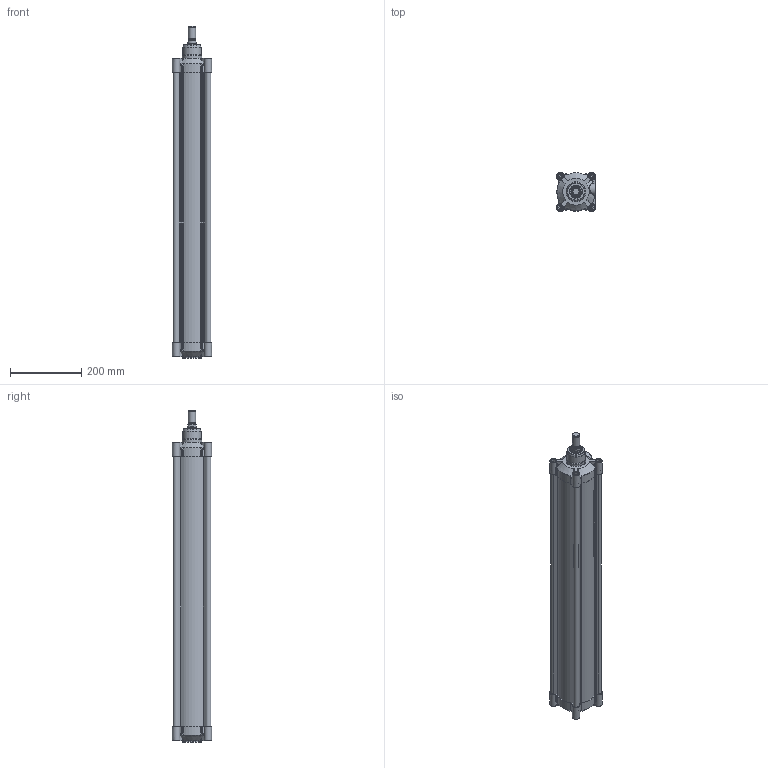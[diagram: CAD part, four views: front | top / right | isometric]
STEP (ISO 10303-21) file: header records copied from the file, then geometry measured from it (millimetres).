
FILE_DESCRIPTION(/* description */ (''),/* implementation_level */ '2;1');
FILE_NAME(/* name */ 'T:\Archivio Inventor\- 00 NUOVI STP PER SITO CON STELO CHE SI MUOVE\SERIE H - U\SERIE HDM\HDM100 - TUBO NUOVO\HDM100.700.GS.M.stp',/* time_stamp */ '2018-08-02T09:55:48+02:00',/* author */ ('carlo.corazza'),/* organization */ (''),/* preprocessor_version */ 'ST-DEVELOPER v16.5',/* originating_system */ 'Autodesk Inventor 2017',/* authorisation */ '');
FILE_SCHEMA (('AUTOMOTIVE_DESIGN { 1 0 10303 214 3 1 1 }'));
Length unit declared in the file: millimetre
Products named in the file (5): HDM100.700.GS.M; TP; TA; STELO-700; CORPO-700
Assembly tree (4 placements, depth 2):
  HDM100.700.GS.M
    TP
    TA
    STELO-700
    CORPO-700
Bounding box: 110 x 110 x 933 mm (x, y, z)
Volume: 2221714.6 mm3; surface area: 1040596.8 mm2
Topology: 4 solids, 29 shells, 1355 faces, 3135 edges, 1912 vertices
Faces by surface type: plane 408, cylinder 313, bspline 270, torus 126, cone 122, sphere 116
Full cylindrical faces by diameter (mm): 5 x2, 5.9 x2, 6.5 x2, 7.25 x2, 8.376 x8, 9.4 x4, 10 x8, 10.3 x8, 11.8 x4, 11.9 x2, 12 x4, 16 x9, 16.3 x8, 17 x2, 17.5 x1, 18.631 x2, 20 x1, 24.5 x1, 25 x1, 25.8 x1, 25.962 x1, 30 x1, 31.5 x2, 35 x3, 52 x1, 55 x2, 100 x1
Entity records: 43668 total; most frequent: CARTESIAN_POINT 13702, ORIENTED_EDGE 5710, DIRECTION 5644, EDGE_CURVE 2855, AXIS2_PLACEMENT_3D 2293, VERTEX_POINT 1857, EDGE_LOOP 1690, STYLED_ITEM 1359
